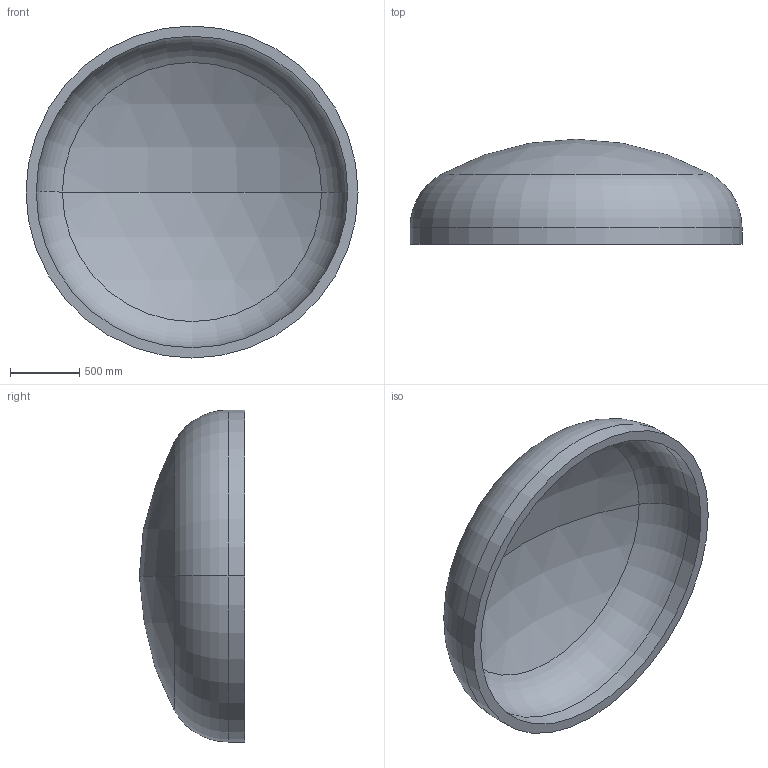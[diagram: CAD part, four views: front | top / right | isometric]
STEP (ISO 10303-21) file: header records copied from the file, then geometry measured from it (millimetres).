
FILE_DESCRIPTION (( 'STEP AP203' ), '1' );
FILE_NAME ('DIN 28013 Korbbogenform_-_Boden DIN 28013 - 2400 x 120 - I - s=74.step', '2016-07-01T15:33:39', ( '' ), ( '' ), 'SwSTEP 2.0', 'SolidWorks 2013', '' );
FILE_SCHEMA (( 'CONFIG_CONTROL_DESIGN' ));
Length unit declared in the file: millimetre
Products named in the file (1): DIN 28013 Korbbogenform_-_Boden DIN 28013 - 2400 x 120 - I - s=74
Bounding box: 2400 x 760.87 x 2400 mm (x, y, z)
Volume: 510342266.3 mm3; surface area: 14345242.4 mm2
Topology: 1 solids, 1 shells, 13 faces, 24 edges, 14 vertices
Faces by surface type: torus 4, cylinder 4, sphere 4, plane 1
Entity records: 407 total; most frequent: DIRECTION 72, CARTESIAN_POINT 52, ORIENTED_EDGE 48, AXIS2_PLACEMENT_3D 34, EDGE_CURVE 24, CIRCLE 20, VERTEX_POINT 14, EDGE_LOOP 14
